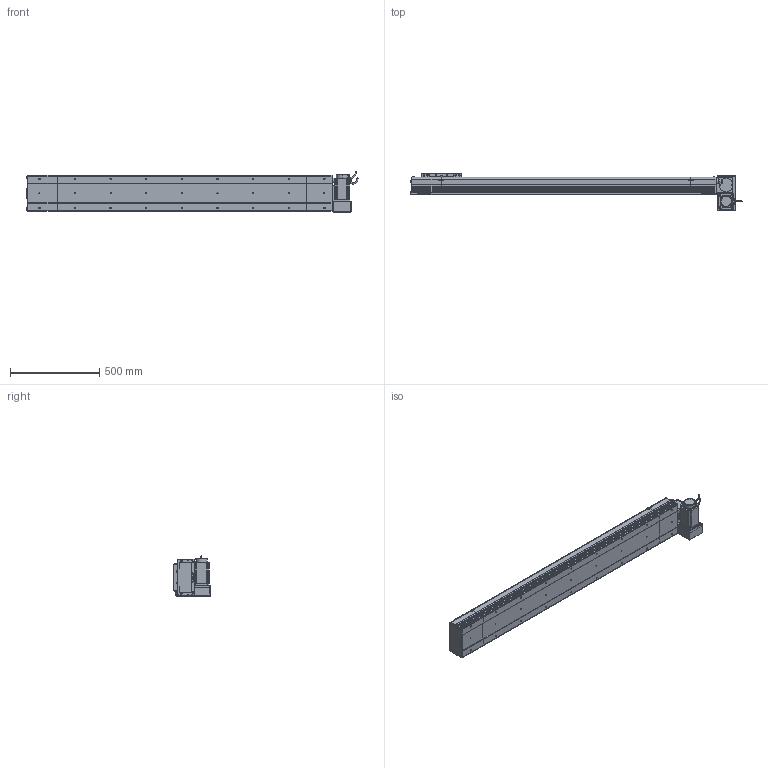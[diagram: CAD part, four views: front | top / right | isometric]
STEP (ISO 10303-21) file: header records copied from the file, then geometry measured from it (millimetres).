
FILE_DESCRIPTION (( 'STEP AP214' ), '1' );
FILE_NAME ('D20 CBH RU S1400.STEP', '2010-06-30T09:26:10', ( 'Conseil Régional Haute-Normandie' ), ( 'Conseil Régional Haute-Normandie' ), 'SwSTEP 2.0', 'SolidWorks 2010', '' );
FILE_SCHEMA (( 'AUTOMOTIVE_DESIGN' ));
Length unit declared in the file: millimetre
Products named in the file (31): Corp D20 S1400_Default; Moteur motionking 90BLDC125A-640; corps 90BLDC125A-640; ecrou_Default; vis M5 L30_Default; Conecteur_Default; Conecteur2_Default; codeur 90BLDC125-640; avant 90BLDC125A-640; vis M5 L47_Default; Glissiere_Default; Chariot D20_Default; Support Chariot D20_Default; vis M5 L15_Default; Plaque De Serrage D20_Default; Plaque de Bout Tail D20_Default; Couvercle_Default; Tail D20_Default; Couvercle S1400_Default; Corp Tail D20_Default; Corp S1400_Default; Plaque de Bout Head D20 RU_Default; Head RU_Default; D20 CBH RU S1400; Couvercle RU_Default; Corp Tail D20 RU_Default; Support moteur RU_Default; Rondelle Cache D20 RU_Default; Cache Support Moteur RU_Default; Plaque De Serrage D20 RU_Default
Assembly tree (66 placements, depth 4):
  D20 CBH RU S1400
    Tail D20_Default
      vis M5 L15_Default  x6
      Plaque De Serrage D20_Default
      Plaque de Bout Tail D20_Default
      Corp Tail D20_Default
      Couvercle_Default
    Head RU_Default
      vis M5 L15_Default  x12
      vis M5 L47_Default  x4
      ecrou_Default  x4
      Rondelle Cache D20 RU_Default  x3
      Plaque de Bout Head D20 RU_Default
      vis M5 L30_Default  x4
      Corp Tail D20 RU_Default
      Cache Support Moteur RU_Default
      Plaque De Serrage D20 RU_Default
      Moteur motionking 90BLDC125A-640
        Conecteur_Default
        codeur 90BLDC125-640
        Conecteur2_Default
        corps 90BLDC125A-640
        avant 90BLDC125A-640
      Couvercle RU_Default
      Support moteur RU_Default
    Corp D20 S1400_Default
      Couvercle S1400_Default
      Corp S1400_Default
    Chariot D20_Default
      vis M5 L15_Default  x8
      Chariot D20_Default
      Support Chariot D20_Default
      Glissiere_Default
Bounding box: 1864.45 x 209 x 229.7 mm (x, y, z)
Volume: 13133394.7 mm3; surface area: 2610375.3 mm2
Topology: 103 solids, 103 shells, 3742 faces, 9344 edges, 6070 vertices
Faces by surface type: plane 2087, bspline 806, cylinder 686, torus 91, cone 68, sphere 4
Entity records: 158686 total; most frequent: CARTESIAN_POINT 82194, ORIENTED_EDGE 15156, DIRECTION 11466, EDGE_CURVE 7578, VERTEX_POINT 5014, LINE 4918, VECTOR 4918, AXIS2_PLACEMENT_3D 3274
